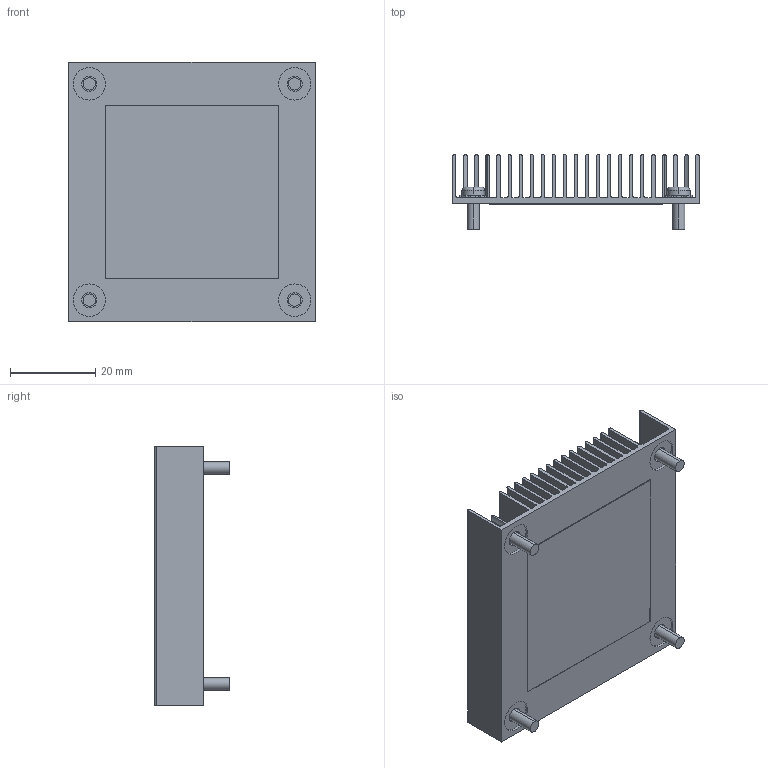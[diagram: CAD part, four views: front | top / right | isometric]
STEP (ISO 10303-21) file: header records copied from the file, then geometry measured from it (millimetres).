
FILE_DESCRIPTION (( 'STEP AP214' ), '1' );
FILE_NAME ('HS1576EBK08.STEP', '2023-03-03T18:37:38', ( '' ), ( '' ), 'SwSTEP 2.0', 'SolidWorks 2020', '' );
FILE_SCHEMA (( 'AUTOMOTIVE_DESIGN' ));
Length unit declared in the file: millimetre
Products named in the file (1): HS1576EBK08
Bounding box: 57.91 x 17.52 x 60.96 mm (x, y, z)
Volume: 15212.1 mm3; surface area: 37631.2 mm2
Topology: 6 solids, 6 shells, 536 faces, 1380 edges, 874 vertices
Faces by surface type: plane 383, cylinder 145, torus 8
Entity records: 22662 total; most frequent: CARTESIAN_POINT 3442, ORIENTED_EDGE 2760, DIRECTION 2748, EDGE_CURVE 1380, VECTOR 1018, LINE 1018, VERTEX_POINT 874, AXIS2_PLACEMENT_3D 865
